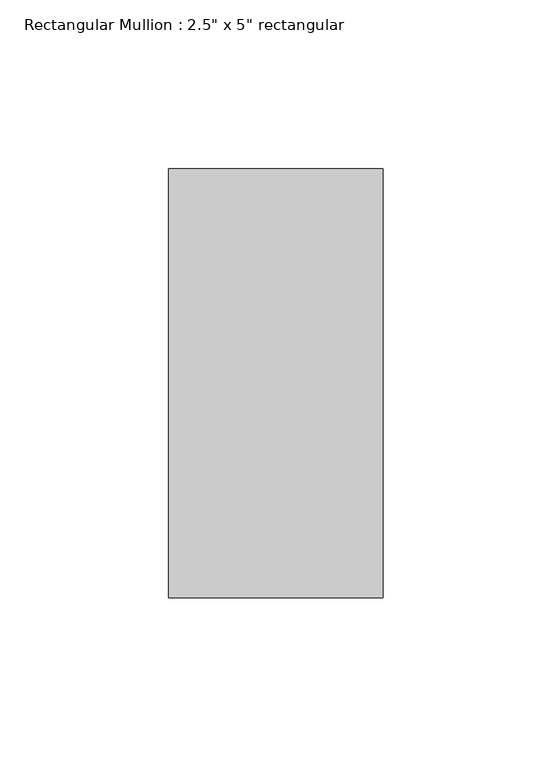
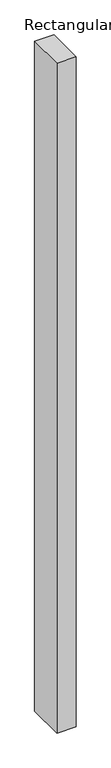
"""IFC4 building model written with IfcOpenShell, lengths in millimetres: member geometry."""

from ifc_helpers import new_model, si_unit, frame, origin, place, context, project, spatial, polyline, outline, extrude, source, transform, mapped, element, save


def member_11459e8a(model_context):
    return source(origin(), model_context, "Body", "SweptSolid", [
        extrude(outline(polyline([(0.0, 63.5), (0.0, -63.5), (-63.5, -63.5), (-63.5, 63.5), (0.0, 63.5)])), frame((0.0, 0.0, -2343.1500002), z_axis=(0.0, 0.0, 1.0), x_axis=(1.0, 0.0, 0.0)), (0.0, 0.0, 1.0), 2343.1500002),
    ])


if __name__ == "__main__":
    model = new_model("IFC4")
    model_context = context("Model", 3, world=origin())
    ifc_project = project(units=[si_unit("LENGTHUNIT", "METRE", prefix="MILLI")], contexts=[model_context])
    site = spatial("IfcSite", under=ifc_project)
    building = spatial("IfcBuilding", under=site)
    placement = place(None, origin())
    member_shape = member_11459e8a(model_context)
    element("IfcMember", 1, ObjectType="Rectangular Mullion : 2.5\" x 5\" rectangular", at=placement, inside=building, context=model_context, shape_type="MappedRepresentation", body=[
        mapped(member_shape, transform((0.0, 0.0, 0.0), x_axis=(1.0, 0.0, 0.0), y_axis=(0.0, 1.0, 0.0), z_axis=(0.0, 0.0, 1.0))),
    ])
    save(model, "model.ifc")
